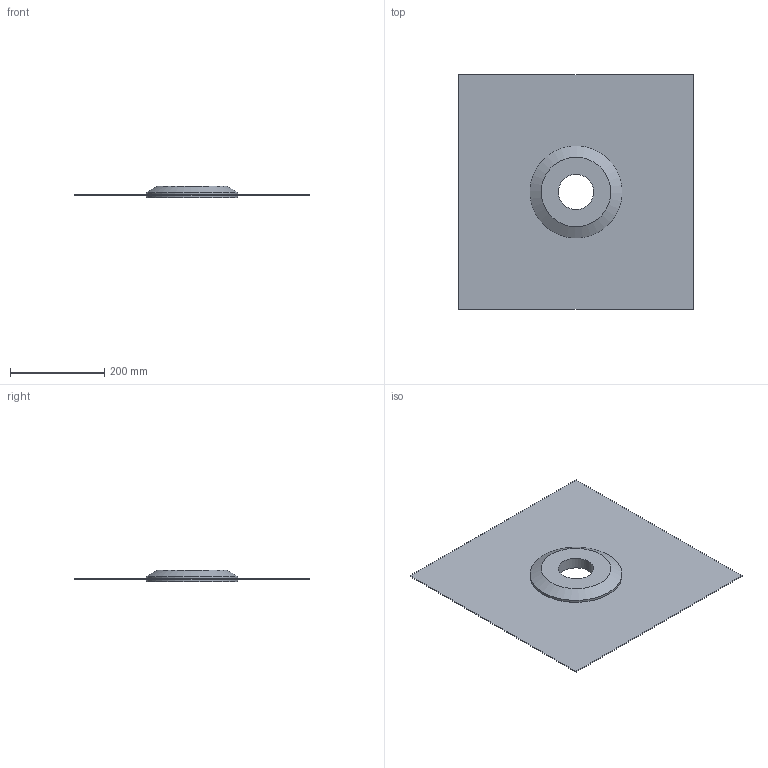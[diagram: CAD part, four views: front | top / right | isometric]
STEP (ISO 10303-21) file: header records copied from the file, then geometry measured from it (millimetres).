
FILE_DESCRIPTION(/* description */ (''),/* implementation_level */ '2;1');
FILE_NAME(/* name */ '365673.stp',/* time_stamp */ '2025-04-01T07:17:10+02:00',/* author */ ('JANAN'),/* organization */ (''),/* preprocessor_version */ 'ST-DEVELOPER v19.2',/* originating_system */ 'Autodesk Inventor 2023',/* authorisation */ '');
FILE_SCHEMA (('AUTOMOTIVE_DESIGN { 1 0 10303 214 3 1 1 }'));
Length unit declared in the file: millimetre
Products named in the file (1): tmpC201.tmp
Bounding box: 497.5 x 497.5 x 25 mm (x, y, z)
Volume: 850903.6 mm3; surface area: 562010.1 mm2
Topology: 2 solids, 2 shells, 16 faces, 29 edges, 19 vertices
Faces by surface type: plane 10, cylinder 5, cone 1
Full cylindrical faces by diameter (mm): 75 x1, 140 x2, 195 x2
Entity records: 471 total; most frequent: DIRECTION 74, CARTESIAN_POINT 65, ORIENTED_EDGE 58, EDGE_CURVE 29, AXIS2_PLACEMENT_3D 28, EDGE_LOOP 22, VERTEX_POINT 19, LINE 18
